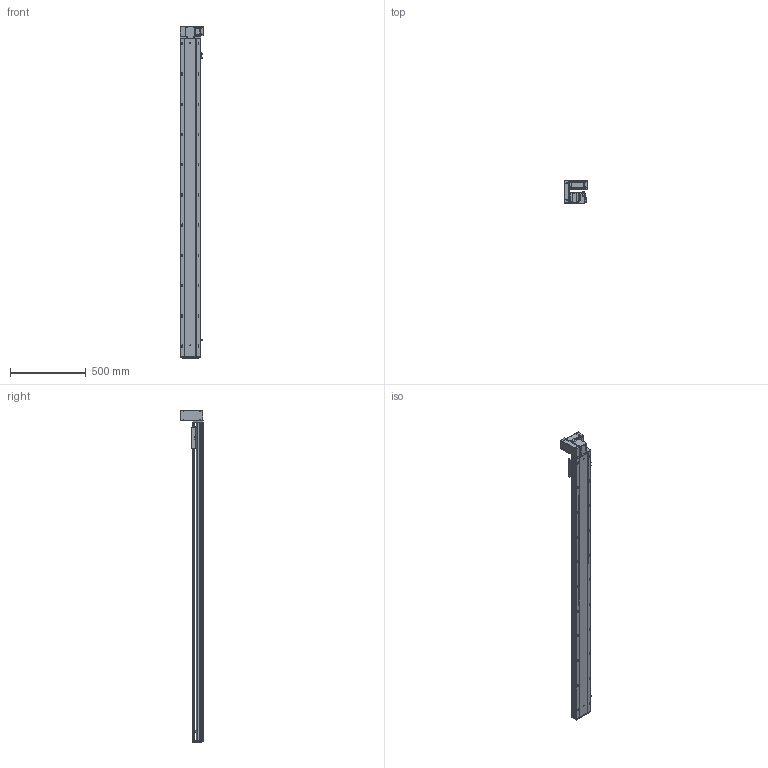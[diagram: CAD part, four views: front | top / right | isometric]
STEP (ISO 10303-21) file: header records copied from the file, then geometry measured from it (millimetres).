
FILE_DESCRIPTION (( 'STEP AP203' ), '1' );
FILE_NAME ('RY140-T-300-UL.SLDASM_1850.step', '2021-03-01T07:45:03', ( '盈信电脑' ), ( '东莞市道滘镇水果街19号' ), 'SwSTEP 2.0', 'SolidWorks 2012', '' );
FILE_SCHEMA (( 'CONFIG_CONTROL_DESIGN' ));
Length unit declared in the file: millimetre
Products named in the file (18): 滅袉蝶18-10; RY140-T翋肮謫裔啣; RY140-T-300-UL.SLDASM_1850; RY140-T萇儂欶; 15; RY120-T主同步轮轴承压盖; 侂狟400W侜督萇儂; RY120-T蹟翐M4; RY120-T肮祭湍揤踡輸1; RY140-T萇儂假蚾啣; RY120-T肮祭湍揤踡輸2; RY140-T翋肮祭謫盓傅釱; RY120外置感应片(140共用）; RY140綴裔啣; 覜茼ん672; RY140-T-300-DL倰第菁釱_1850; RY140肮祭謫臏賑輸; RY140-T-300-DL倰第奻裔啣_1850
Assembly tree (23 placements, depth 3):
  RY140-T-300-UL.SLDASM_1850
    RY140-T-300-DL倰第菁釱_1850
    RY140肮祭謫臏賑輸
    RY140-T-300-DL倰第奻裔啣_1850
    RY140綴裔啣
    覜茼ん672  x3
    RY120外置感应片(140共用）
    RY120-T肮祭湍揤踡輸2
    RY120-T肮祭湍揤踡輸1
    RY140-T翋肮祭謫盓傅釱
    RY140-T萇儂假蚾啣
    侂狟400W侜督萇儂
      15
    RY120-T主同步轮轴承压盖
    RY120-T蹟翐M4  x4
    RY140-T萇儂欶
    滅袉蝶18-10  x2
    RY140-T翋肮謫裔啣
Bounding box: 157 x 152.5 x 2196 mm (x, y, z)
Volume: 6029788.3 mm3; surface area: 2354461.2 mm2
Topology: 22 solids, 22 shells, 2847 faces, 7817 edges, 4978 vertices
Faces by surface type: plane 1381, cylinder 1088, cone 278, bspline 100
Entity records: 90047 total; most frequent: CARTESIAN_POINT 21867, ORIENTED_EDGE 14002, DIRECTION 13385, EDGE_CURVE 7001, VERTEX_POINT 4577, AXIS2_PLACEMENT_3D 4496, LINE 4393, VECTOR 4393
